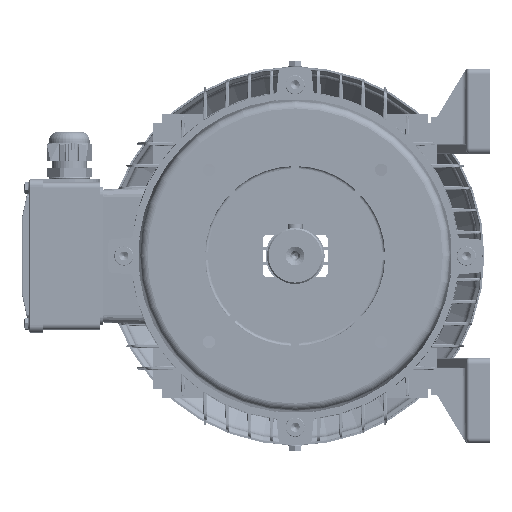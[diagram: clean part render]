
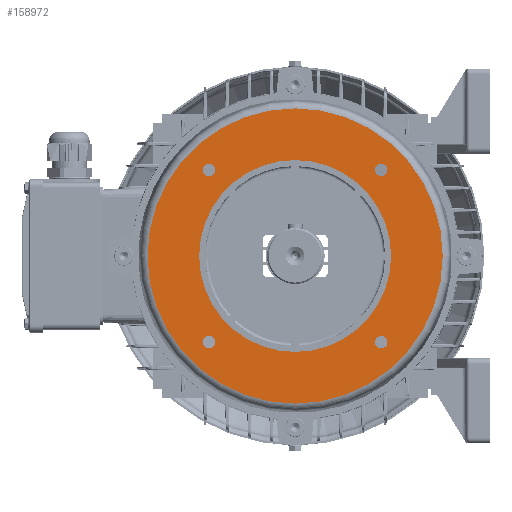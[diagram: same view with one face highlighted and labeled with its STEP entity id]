
A CAD part, left-side view. The second image highlights one B-rep face of the part: STEP entity #158972.
In plain terms, the highlighted planar face has unit normal (-1, 0, 0).
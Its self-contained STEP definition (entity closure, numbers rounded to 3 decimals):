
#920 = ORIENTED_EDGE ( 'NONE', *, *, #52484, .T. ) ;
#4813 = ORIENTED_EDGE ( 'NONE', *, *, #152123, .T. ) ;
#5764 = CARTESIAN_POINT ( 'NONE',  ( -22., 58.336, 62.586 ) ) ;
#6613 = EDGE_CURVE ( 'NONE', #83707, #10007, #98278, .T. ) ;
#9788 = CARTESIAN_POINT ( 'NONE',  ( -22., 58.336, -58.336 ) ) ;
#10007 = VERTEX_POINT ( 'NONE', #59407 ) ;
#13386 = ORIENTED_EDGE ( 'NONE', *, *, #89895, .T. ) ;
#14872 = EDGE_LOOP ( 'NONE', ( #130702, #4813 ) ) ;
#15354 = AXIS2_PLACEMENT_3D ( 'NONE', #27506, #40049, #126984 ) ;
#16327 = AXIS2_PLACEMENT_3D ( 'NONE', #139990, #142724, #55755 ) ;
#17319 = FACE_BOUND ( 'NONE', #91070, .T. ) ;
#18408 = VERTEX_POINT ( 'NONE', #156255 ) ;
#18988 = CARTESIAN_POINT ( 'NONE',  ( -22., 58.336, 58.336 ) ) ;
#19080 = AXIS2_PLACEMENT_3D ( 'NONE', #9788, #72350, #159408 ) ;
#19908 = VERTEX_POINT ( 'NONE', #146749 ) ;
#20358 = CARTESIAN_POINT ( 'NONE',  ( -22., 58.336, 58.336 ) ) ;
#20401 = EDGE_LOOP ( 'NONE', ( #71490, #102368 ) ) ;
#21230 = EDGE_CURVE ( 'NONE', #87096, #26210, #110000, .T. ) ;
#22139 = DIRECTION ( 'NONE',  ( -1., 0., 0. ) ) ;
#22639 = AXIS2_PLACEMENT_3D ( 'NONE', #107978, #22139, #133027 ) ;
#26210 = VERTEX_POINT ( 'NONE', #42948 ) ;
#27096 = CIRCLE ( 'NONE', #132032, 100. ) ;
#27506 = CARTESIAN_POINT ( 'NONE',  ( -22., -58.336, -58.336 ) ) ;
#28000 = ORIENTED_EDGE ( 'NONE', *, *, #33223, .T. ) ;
#28403 = CARTESIAN_POINT ( 'NONE',  ( -22., 0., 0. ) ) ;
#28536 = CIRCLE ( 'NONE', #108433, 4.25 ) ;
#29359 = CARTESIAN_POINT ( 'NONE',  ( -22., 0., 0. ) ) ;
#29573 = EDGE_CURVE ( 'NONE', #65245, #131850, #160593, .T. ) ;
#30789 = CARTESIAN_POINT ( 'NONE',  ( -22., -58.336, 54.086 ) ) ;
#31036 = VERTEX_POINT ( 'NONE', #120094 ) ;
#33223 = EDGE_CURVE ( 'NONE', #143928, #56250, #107121, .T. ) ;
#36875 = FACE_BOUND ( 'NONE', #128030, .T. ) ;
#38476 = DIRECTION ( 'NONE',  ( 0., 0., -1. ) ) ;
#40049 = DIRECTION ( 'NONE',  ( 1., 0., 0. ) ) ;
#40223 = AXIS2_PLACEMENT_3D ( 'NONE', #64316, #151303, #63800 ) ;
#42948 = CARTESIAN_POINT ( 'NONE',  ( -22., 58.336, -54.086 ) ) ;
#46420 = CIRCLE ( 'NONE', #87955, 65. ) ;
#47826 = AXIS2_PLACEMENT_3D ( 'NONE', #28403, #53915, #152947 ) ;
#49026 = CIRCLE ( 'NONE', #15354, 4.25 ) ;
#50366 = FACE_BOUND ( 'NONE', #14872, .T. ) ;
#52484 = EDGE_CURVE ( 'NONE', #26210, #87096, #80107, .T. ) ;
#53915 = DIRECTION ( 'NONE',  ( -1., 0., 0. ) ) ;
#54075 = CARTESIAN_POINT ( 'NONE',  ( -22., 0., 65. ) ) ;
#55239 = DIRECTION ( 'NONE',  ( 1., 0., 0. ) ) ;
#55755 = DIRECTION ( 'NONE',  ( 0., 0., -1. ) ) ;
#56250 = VERTEX_POINT ( 'NONE', #134986 ) ;
#59407 = CARTESIAN_POINT ( 'NONE',  ( -22., 0., -65. ) ) ;
#63114 = CARTESIAN_POINT ( 'NONE',  ( -22., 65., 0. ) ) ;
#63800 = DIRECTION ( 'NONE',  ( 0., 0., -1. ) ) ;
#64316 = CARTESIAN_POINT ( 'NONE',  ( -22., -58.336, 58.336 ) ) ;
#65245 = VERTEX_POINT ( 'NONE', #97868 ) ;
#65397 = CIRCLE ( 'NONE', #159756, 4.25 ) ;
#67815 = CIRCLE ( 'NONE', #40223, 4.25 ) ;
#69054 = ORIENTED_EDGE ( 'NONE', *, *, #108987, .F. ) ;
#71490 = ORIENTED_EDGE ( 'NONE', *, *, #156946, .T. ) ;
#71596 = AXIS2_PLACEMENT_3D ( 'NONE', #148353, #149417, #38476 ) ;
#72350 = DIRECTION ( 'NONE',  ( 1., 0., 0. ) ) ;
#76089 = DIRECTION ( 'NONE',  ( 0., 0., -1. ) ) ;
#77475 = CIRCLE ( 'NONE', #16327, 4.25 ) ;
#79183 = DIRECTION ( 'NONE',  ( 0., 0., -1. ) ) ;
#79531 = FACE_OUTER_BOUND ( 'NONE', #127414, .T. ) ;
#80107 = CIRCLE ( 'NONE', #19080, 4.25 ) ;
#80372 = EDGE_CURVE ( 'NONE', #19908, #143199, #67815, .T. ) ;
#82605 = DIRECTION ( 'NONE',  ( 0., 0., -1. ) ) ;
#83707 = VERTEX_POINT ( 'NONE', #54075 ) ;
#86742 = CARTESIAN_POINT ( 'NONE',  ( -22., 0., 100. ) ) ;
#87096 = VERTEX_POINT ( 'NONE', #115992 ) ;
#87542 = PLANE ( 'NONE',  #122774 ) ;
#87955 = AXIS2_PLACEMENT_3D ( 'NONE', #29359, #91364, #90852 ) ;
#89123 = DIRECTION ( 'NONE',  ( 1., 0., 0. ) ) ;
#89477 = ORIENTED_EDGE ( 'NONE', *, *, #21230, .T. ) ;
#89895 = EDGE_CURVE ( 'NONE', #56250, #143928, #27096, .T. ) ;
#90852 = DIRECTION ( 'NONE',  ( 0., 0., 1. ) ) ;
#91070 = EDGE_LOOP ( 'NONE', ( #89477, #920 ) ) ;
#91364 = DIRECTION ( 'NONE',  ( -1., 0., 0. ) ) ;
#92227 = CARTESIAN_POINT ( 'NONE',  ( -22., -58.336, 58.336 ) ) ;
#97868 = CARTESIAN_POINT ( 'NONE',  ( -22., 58.336, 54.086 ) ) ;
#98278 = CIRCLE ( 'NONE', #47826, 65. ) ;
#99702 = EDGE_CURVE ( 'NONE', #31036, #18408, #77475, .T. ) ;
#99910 = DIRECTION ( 'NONE',  ( -1., 0., 0. ) ) ;
#100953 = CARTESIAN_POINT ( 'NONE',  ( -22., 0., 0. ) ) ;
#102368 = ORIENTED_EDGE ( 'NONE', *, *, #99702, .T. ) ;
#107026 = DIRECTION ( 'NONE',  ( 1., 0., 0. ) ) ;
#107121 = CIRCLE ( 'NONE', #22639, 100. ) ;
#107825 = DIRECTION ( 'NONE',  ( 1., 0., 0. ) ) ;
#107978 = CARTESIAN_POINT ( 'NONE',  ( -22., 0., 0. ) ) ;
#108433 = AXIS2_PLACEMENT_3D ( 'NONE', #92227, #55239, #79183 ) ;
#108987 = EDGE_CURVE ( 'NONE', #10007, #83707, #46420, .T. ) ;
#110000 = CIRCLE ( 'NONE', #71596, 4.25 ) ;
#114297 = ORIENTED_EDGE ( 'NONE', *, *, #6613, .F. ) ;
#114651 = FACE_BOUND ( 'NONE', #128513, .T. ) ;
#115992 = CARTESIAN_POINT ( 'NONE',  ( -22., 58.336, -62.586 ) ) ;
#120094 = CARTESIAN_POINT ( 'NONE',  ( -22., -58.336, -54.086 ) ) ;
#120496 = FACE_BOUND ( 'NONE', #20401, .T. ) ;
#120919 = DIRECTION ( 'NONE',  ( 0., 0., -1. ) ) ;
#122774 = AXIS2_PLACEMENT_3D ( 'NONE', #63114, #89123, #76089 ) ;
#126984 = DIRECTION ( 'NONE',  ( 0., 0., -1. ) ) ;
#127414 = EDGE_LOOP ( 'NONE', ( #28000, #13386 ) ) ;
#127957 = AXIS2_PLACEMENT_3D ( 'NONE', #20358, #107825, #120919 ) ;
#128030 = EDGE_LOOP ( 'NONE', ( #144390, #159831 ) ) ;
#128513 = EDGE_LOOP ( 'NONE', ( #114297, #69054 ) ) ;
#130702 = ORIENTED_EDGE ( 'NONE', *, *, #29573, .T. ) ;
#131850 = VERTEX_POINT ( 'NONE', #5764 ) ;
#132032 = AXIS2_PLACEMENT_3D ( 'NONE', #100953, #99910, #150477 ) ;
#133027 = DIRECTION ( 'NONE',  ( 0., 0., 1. ) ) ;
#134986 = CARTESIAN_POINT ( 'NONE',  ( -22., 0., -100. ) ) ;
#139990 = CARTESIAN_POINT ( 'NONE',  ( -22., -58.336, -58.336 ) ) ;
#142724 = DIRECTION ( 'NONE',  ( 1., 0., 0. ) ) ;
#143199 = VERTEX_POINT ( 'NONE', #30789 ) ;
#143928 = VERTEX_POINT ( 'NONE', #86742 ) ;
#144390 = ORIENTED_EDGE ( 'NONE', *, *, #150902, .T. ) ;
#146749 = CARTESIAN_POINT ( 'NONE',  ( -22., -58.336, 62.586 ) ) ;
#148353 = CARTESIAN_POINT ( 'NONE',  ( -22., 58.336, -58.336 ) ) ;
#149417 = DIRECTION ( 'NONE',  ( 1., 0., 0. ) ) ;
#150477 = DIRECTION ( 'NONE',  ( 0., 0., 1. ) ) ;
#150902 = EDGE_CURVE ( 'NONE', #143199, #19908, #28536, .T. ) ;
#151303 = DIRECTION ( 'NONE',  ( 1., 0., 0. ) ) ;
#152123 = EDGE_CURVE ( 'NONE', #131850, #65245, #65397, .T. ) ;
#152947 = DIRECTION ( 'NONE',  ( 0., 0., 1. ) ) ;
#156255 = CARTESIAN_POINT ( 'NONE',  ( -22., -58.336, -62.586 ) ) ;
#156946 = EDGE_CURVE ( 'NONE', #18408, #31036, #49026, .T. ) ;
#158972 = ADVANCED_FACE ( 'NONE', ( #50366, #36875, #120496, #17319, #79531, #114651 ), #87542, .F. ) ;
#159408 = DIRECTION ( 'NONE',  ( 0., 0., -1. ) ) ;
#159756 = AXIS2_PLACEMENT_3D ( 'NONE', #18988, #107026, #82605 ) ;
#159831 = ORIENTED_EDGE ( 'NONE', *, *, #80372, .T. ) ;
#160593 = CIRCLE ( 'NONE', #127957, 4.25 ) ;
